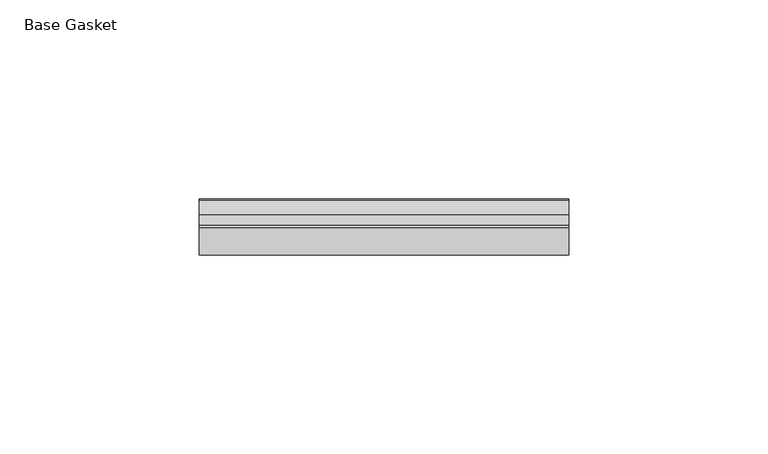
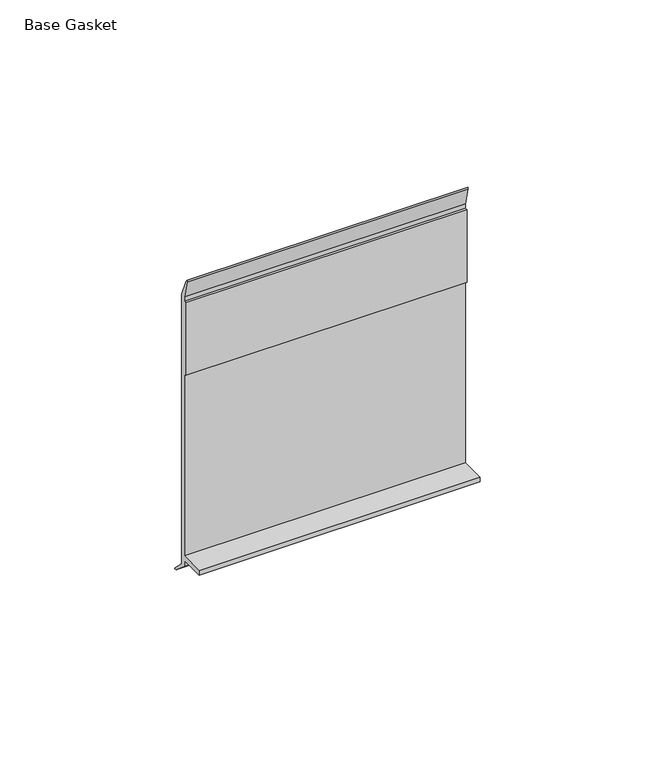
"""IFC4 building model written with IfcOpenShell, lengths in millimetres: furniture geometry, Gasket-Teknion-FHGB-AI_Healthcare-R2021 : Base Gasket."""

from ifc_helpers import new_model, si_unit, frame, origin, place, context, project, spatial, polyline, outline, extrude, source, transform, mapped, element, save


def base_gasket_fcadc6e8(model_context):
    return source(origin(), model_context, "Body", "SweptSolid", [
        extrude(outline(polyline([(3.7283812, 98.4568417), (3.7283812, 4.3498477), (7.4222115, 0.6560174), (7.8482342, 0.0), (6.8281054, 0.3520979), (2.2043812, 4.3498477), (2.1334222, 6.3818476), (-6.2405171, 6.3818476), (-6.2405171, 7.9398773), (2.2043812, 7.9398773), (2.2043812, 71.4693447), (1.4106313, 71.4693447), (1.4106313, 96.8693477), (2.2043812, 96.8693477), (2.2043812, 98.4568417), (0.6755308, 104.4162708), (0.6755308, 105.2002997), (1.1891543, 104.587663), (3.7283812, 98.4568417)])), frame((-1527.8982117, 0.0, 0.0), z_axis=(1.0, 0.0, 0.0), x_axis=(0.0, 1.0, 0.0)), (0.0, 0.0, 1.0), 92.9132),
    ])


if __name__ == "__main__":
    model = new_model("IFC4")
    model_context = context("Model", 3, world=origin())
    ifc_project = project(units=[si_unit("LENGTHUNIT", "METRE", prefix="MILLI")], contexts=[model_context])
    site = spatial("IfcSite", under=ifc_project)
    building = spatial("IfcBuilding", under=site)
    placement = place(None, origin())
    base_gasket_shape = base_gasket_fcadc6e8(model_context)
    element("IfcFurniture", 1, ObjectType="Gasket-Teknion-FHGB-AI_Healthcare-R2021 : Base Gasket", at=placement, inside=building, context=model_context, shape_type="MappedRepresentation", body=[
        mapped(base_gasket_shape, transform((0.0, 0.0, 0.0), x_axis=(1.0, 0.0, 0.0), y_axis=(0.0, 1.0, 0.0), z_axis=(0.0, 0.0, 1.0))),
    ])
    save(model, "model.ifc")
